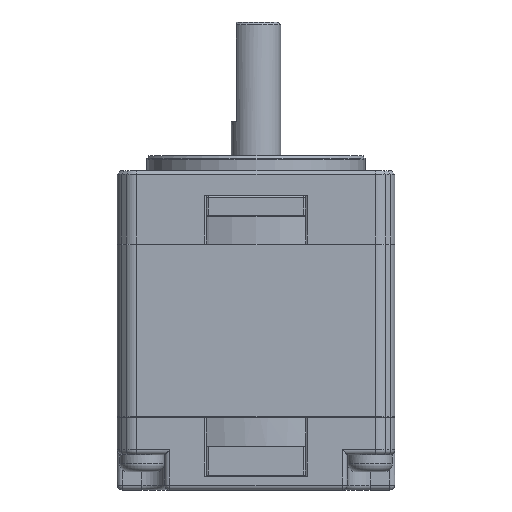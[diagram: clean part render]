
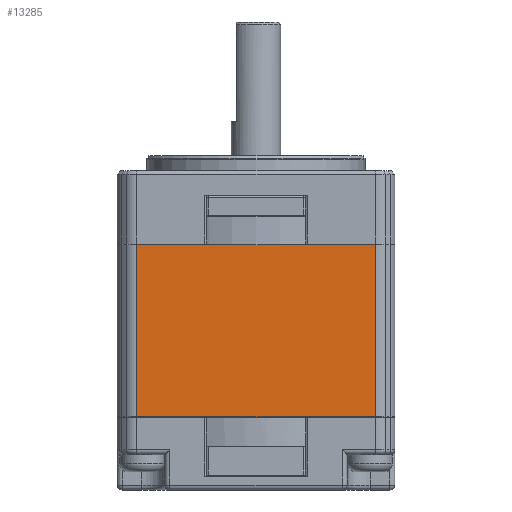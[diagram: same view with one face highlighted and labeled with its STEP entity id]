
A CAD part, front view. The second image highlights one B-rep face of the part: STEP entity #13285.
In plain terms, the highlighted planar face has unit normal (0, -1, 0).
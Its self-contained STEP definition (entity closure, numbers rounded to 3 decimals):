
#2393 = EDGE_LOOP ( 'NONE', ( #11500, #11502, #11501, #11503 ) ) ;
#3494 = VECTOR ( 'NONE', #7775, 1000. ) ;
#3496 = VECTOR ( 'NONE', #7780, 1000. ) ;
#3498 = VECTOR ( 'NONE', #7782, 1000. ) ;
#3500 = VECTOR ( 'NONE', #7784, 1000. ) ;
#3836 = AXIS2_PLACEMENT_3D ( 'NONE', #19527, #19528, #19529 ) ;
#7774 = CARTESIAN_POINT ( 'NONE',  ( 12.032, -14., -17.5 ) ) ;
#7775 = DIRECTION ( 'NONE',  ( 0., 0., 1. ) ) ;
#7779 = CARTESIAN_POINT ( 'NONE',  ( -12.032, -14., -17.4 ) ) ;
#7780 = DIRECTION ( 'NONE',  ( 1., 0., 0. ) ) ;
#7781 = CARTESIAN_POINT ( 'NONE',  ( -12.032, -14., -17.5 ) ) ;
#7782 = DIRECTION ( 'NONE',  ( 0., 0., 1. ) ) ;
#7783 = CARTESIAN_POINT ( 'NONE',  ( -12.032, -14., -0.05 ) ) ;
#7784 = DIRECTION ( 'NONE',  ( -1., 0., 0. ) ) ;
#8037 = CARTESIAN_POINT ( 'NONE',  ( 12.032, -14., -0.05 ) ) ;
#8070 = CARTESIAN_POINT ( 'NONE',  ( -12.032, -14., -0.05 ) ) ;
#8111 = CARTESIAN_POINT ( 'NONE',  ( 12.032, -14., -17.4 ) ) ;
#8236 = CARTESIAN_POINT ( 'NONE',  ( -12.032, -14., -17.4 ) ) ;
#9468 = EDGE_CURVE ( 'NONE', #9872, #9798, #10668, .T. ) ;
#9470 = EDGE_CURVE ( 'NONE', #9997, #9872, #10669, .T. ) ;
#9471 = EDGE_CURVE ( 'NONE', #9997, #9831, #10670, .T. ) ;
#9472 = EDGE_CURVE ( 'NONE', #9798, #9831, #10671, .T. ) ;
#9798 = VERTEX_POINT ( 'NONE', #8037 ) ;
#9831 = VERTEX_POINT ( 'NONE', #8070 ) ;
#9872 = VERTEX_POINT ( 'NONE', #8111 ) ;
#9997 = VERTEX_POINT ( 'NONE', #8236 ) ;
#10668 = LINE ( 'NONE', #7774, #3494 ) ;
#10669 = LINE ( 'NONE', #7779, #3496 ) ;
#10670 = LINE ( 'NONE', #7781, #3498 ) ;
#10671 = LINE ( 'NONE', #7783, #3500 ) ;
#11500 = ORIENTED_EDGE ( 'NONE', *, *, #9471, .F. ) ;
#11501 = ORIENTED_EDGE ( 'NONE', *, *, #9468, .T. ) ;
#11502 = ORIENTED_EDGE ( 'NONE', *, *, #9470, .T. ) ;
#11503 = ORIENTED_EDGE ( 'NONE', *, *, #9472, .T. ) ;
#13285 = ADVANCED_FACE ( 'NONE', ( #18473 ), #19526, .T. ) ;
#18473 = FACE_OUTER_BOUND ( 'NONE', #2393, .T. ) ;
#19526 = PLANE ( 'NONE',  #3836 ) ;
#19527 = CARTESIAN_POINT ( 'NONE',  ( -12.032, -14., -17.5 ) ) ;
#19528 = DIRECTION ( 'NONE',  ( 0., -1., 0. ) ) ;
#19529 = DIRECTION ( 'NONE',  ( 0., 0., -1. ) ) ;
